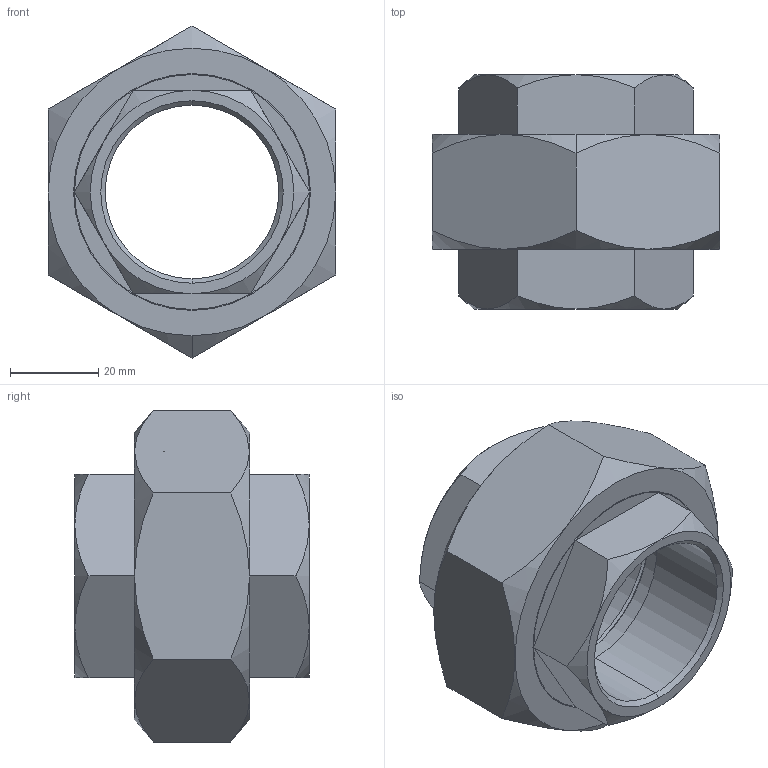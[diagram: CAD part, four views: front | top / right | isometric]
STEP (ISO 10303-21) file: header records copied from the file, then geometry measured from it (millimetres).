
FILE_DESCRIPTION (( 'STEP AP203' ), '1' );
FILE_NAME ('AXH14 B7B7 00.STEP', '2018-11-17T14:35:07', ( '' ), ( '' ), 'SwSTEP 2.0', 'SolidWorks 2013', '' );
FILE_SCHEMA (( 'CONFIG_CONTROL_DESIGN' ));
Length unit declared in the file: millimetre
Products named in the file (1): AXH14 B7B7 00
Bounding box: 65 x 53 x 75.06 mm (x, y, z)
Volume: 74182.7 mm3; surface area: 23181.5 mm2
Topology: 1 solids, 1 shells, 88 faces, 180 edges, 100 vertices
Faces by surface type: plane 38, cone 34, cylinder 16
Entity records: 2701 total; most frequent: CARTESIAN_POINT 825, DIRECTION 386, ORIENTED_EDGE 360, EDGE_CURVE 180, AXIS2_PLACEMENT_3D 165, VERTEX_POINT 100, EDGE_LOOP 96, ADVANCED_FACE 88
